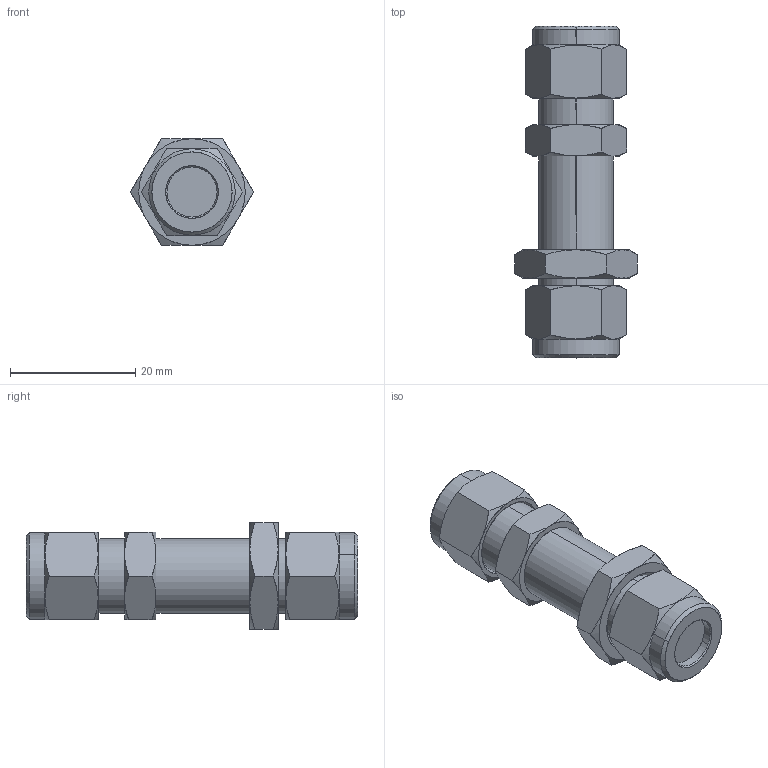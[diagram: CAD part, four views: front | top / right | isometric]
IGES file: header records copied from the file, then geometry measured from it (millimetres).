
Start section: SolidWorks IGES file using analytic representation for surfaces
Global section: file name: K:\Disegni Esecutivi\Serie 10000\Complessivi_10000\10465\10465_iges\1046500003A.IGS; native system: SolidWorks 2008; preprocessor: SolidWorks 2008; author: cad05; date: 090108.171051; units: millimetre
Bounding box: 19.63 x 53 x 17 mm (x, y, z)
Surface area: 3516 mm2 (no closed solid volume)
Topology: 0 solids, 0 shells, 104 faces, 1568 edges, 1568 vertices
Faces by surface type: revolution 70, bspline 34
